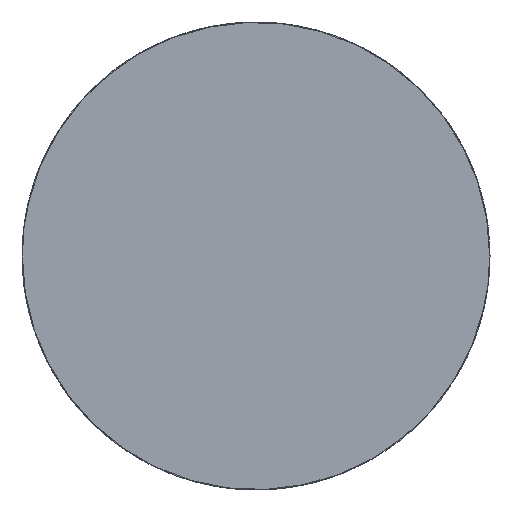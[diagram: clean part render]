
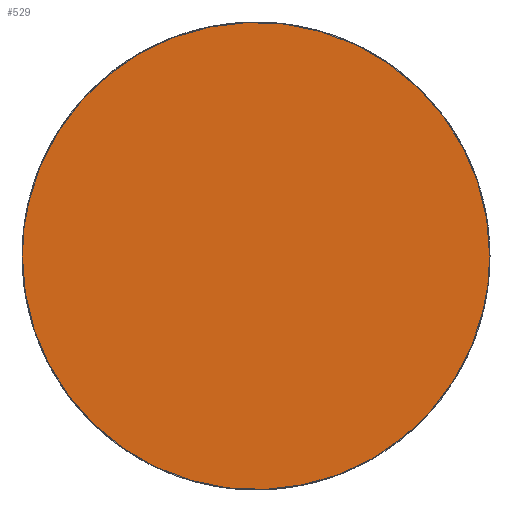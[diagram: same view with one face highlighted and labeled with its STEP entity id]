
A CAD part, top view. The second image highlights one B-rep face of the part: STEP entity #529.
In plain terms, the highlighted planar face has unit normal (0, 0, 1).
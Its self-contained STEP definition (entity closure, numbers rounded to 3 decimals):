
#131=(
BOUNDED_CURVE()
B_SPLINE_CURVE(3,(#7347,#7348,#7349,#7350,#7351,#7352,#7353,#7354,#7355,
#7356,#7357,#7358,#7359,#7360,#7361,#7362,#7363,#7364,#7365,#7366,#7367,
#7368,#7369,#7370,#7371,#7372,#7373,#7374,#7375,#7376,#7377,#7378,#7379,
#7380,#7381),.UNSPECIFIED.,.F.,.F.)
B_SPLINE_CURVE_WITH_KNOTS((4,1,1,1,1,1,1,1,1,1,1,1,1,1,1,1,1,1,1,1,1,1,
1,1,1,1,1,1,1,1,1,1,4),(0.,59.378,118.756,181.701,
244.646,310.217,375.788,442.756,509.723,
576.691,643.658,709.229,774.8,837.745,
900.691,960.069,1019.446,1078.824,1138.202,
1201.147,1264.093,1329.664,1395.235,1462.202,
1529.17,1596.137,1663.104,1728.675,1794.247,
1857.192,1920.137,1979.515,2038.893),
 .UNSPECIFIED.)
CURVE()
GEOMETRIC_REPRESENTATION_ITEM()
RATIONAL_B_SPLINE_CURVE((1.,1.,1.,1.,1.,1.,1.,
1.,1.,1.,1.,1.,1.,1.,1.,1.,
1.,1.,1.,1.,1.,1.,1.,1.,1.,1.,1.,1.,1.,1.,
1.,1.,1.,1.,1.))
REPRESENTATION_ITEM('')
);
#138=(
BOUNDED_CURVE()
B_SPLINE_CURVE(3,(#7497,#7498,#7499,#7500,#7501,#7502,#7503,#7504,#7505,
#7506,#7507,#7508,#7509,#7510,#7511,#7512,#7513,#7514,#7515,#7516,#7517,
#7518,#7519,#7520,#7521,#7522,#7523,#7524,#7525,#7526,#7527,#7528,#7529,
#7530,#7531),.UNSPECIFIED.,.F.,.F.)
B_SPLINE_CURVE_WITH_KNOTS((4,1,1,1,1,1,1,1,1,1,1,1,1,1,1,1,1,1,1,1,1,1,
1,1,1,1,1,1,1,1,1,1,4),(2038.893,2098.271,2157.648,
2220.594,2283.539,2349.11,2414.681,2481.649,
2548.616,2615.583,2682.551,2748.122,2813.693,
2876.638,2939.584,2998.961,3058.339,3117.717,
3177.095,3240.04,3302.986,3368.557,3434.128,
3501.095,3568.062,3635.03,3701.997,3767.568,
3833.139,3896.085,3959.03,4018.408,4077.786),
 .UNSPECIFIED.)
CURVE()
GEOMETRIC_REPRESENTATION_ITEM()
RATIONAL_B_SPLINE_CURVE((1.,1.,1.,1.,1.,1.,
1.,1.,1.,1.,1.,1.,1.,1.,1.,1.,1.,1.,1.,
1.,1.,1.,1.,1.,1.,1.,1.,
1.,1.,1.,1.,1.,1.,1.,1.))
REPRESENTATION_ITEM('')
);
#529=ADVANCED_FACE('',(#741),#2993,.T.);
#741=FACE_OUTER_BOUND('',#953,.T.);
#953=EDGE_LOOP('',(#1551,#1552));
#1551=ORIENTED_EDGE('',*,*,#2207,.T.);
#1552=ORIENTED_EDGE('',*,*,#2214,.T.);
#2207=EDGE_CURVE('',#2801,#2805,#131,.T.);
#2214=EDGE_CURVE('',#2805,#2801,#138,.T.);
#2801=VERTEX_POINT('',#7227);
#2805=VERTEX_POINT('',#7231);
#2993=PLANE('',#3112);
#3112=AXIS2_PLACEMENT_3D('',#6793,#3214,$);
#3214=DIRECTION('',(0.,0.,1.));
#6793=CARTESIAN_POINT('',(-812.5,-812.5,742.));
#7227=CARTESIAN_POINT('',(649.,0.,742.));
#7231=CARTESIAN_POINT('',(-649.,0.,742.));
#7347=CARTESIAN_POINT('',(649.,0.,742.));
#7348=CARTESIAN_POINT('',(649.,19.793,742.));
#7349=CARTESIAN_POINT('',(647.188,59.378,742.));
#7350=CARTESIAN_POINT('',(638.893,119.438,742.));
#7351=CARTESIAN_POINT('',(624.709,179.618,742.));
#7352=CARTESIAN_POINT('',(604.097,240.098,742.));
#7353=CARTESIAN_POINT('',(577.241,299.047,742.));
#7354=CARTESIAN_POINT('',(543.9,356.146,742.));
#7355=CARTESIAN_POINT('',(504.635,409.929,742.));
#7356=CARTESIAN_POINT('',(459.727,459.727,742.));
#7357=CARTESIAN_POINT('',(409.929,504.635,742.));
#7358=CARTESIAN_POINT('',(356.146,543.9,742.));
#7359=CARTESIAN_POINT('',(299.047,577.241,742.));
#7360=CARTESIAN_POINT('',(240.098,604.097,742.));
#7361=CARTESIAN_POINT('',(179.618,624.709,742.));
#7362=CARTESIAN_POINT('',(119.438,638.893,742.));
#7363=CARTESIAN_POINT('',(59.378,647.188,742.));
#7364=CARTESIAN_POINT('',(0.,649.906,742.));
#7365=CARTESIAN_POINT('',(-59.378,647.188,742.));
#7366=CARTESIAN_POINT('',(-119.438,638.893,742.));
#7367=CARTESIAN_POINT('',(-179.618,624.709,742.));
#7368=CARTESIAN_POINT('',(-240.098,604.097,742.));
#7369=CARTESIAN_POINT('',(-299.047,577.241,742.));
#7370=CARTESIAN_POINT('',(-356.146,543.9,742.));
#7371=CARTESIAN_POINT('',(-409.929,504.635,742.));
#7372=CARTESIAN_POINT('',(-459.727,459.727,742.));
#7373=CARTESIAN_POINT('',(-504.635,409.929,742.));
#7374=CARTESIAN_POINT('',(-543.9,356.146,742.));
#7375=CARTESIAN_POINT('',(-577.241,299.047,742.));
#7376=CARTESIAN_POINT('',(-604.097,240.098,742.));
#7377=CARTESIAN_POINT('',(-624.709,179.618,742.));
#7378=CARTESIAN_POINT('',(-638.893,119.438,742.));
#7379=CARTESIAN_POINT('',(-647.188,59.378,742.));
#7380=CARTESIAN_POINT('',(-649.,19.793,742.));
#7381=CARTESIAN_POINT('',(-649.,0.,742.));
#7497=CARTESIAN_POINT('',(-649.,0.,742.));
#7498=CARTESIAN_POINT('',(-649.,-19.793,742.));
#7499=CARTESIAN_POINT('',(-647.188,-59.378,742.));
#7500=CARTESIAN_POINT('',(-638.893,-119.438,742.));
#7501=CARTESIAN_POINT('',(-624.709,-179.618,742.));
#7502=CARTESIAN_POINT('',(-604.097,-240.098,742.));
#7503=CARTESIAN_POINT('',(-577.241,-299.047,742.));
#7504=CARTESIAN_POINT('',(-543.9,-356.146,742.));
#7505=CARTESIAN_POINT('',(-504.635,-409.929,742.));
#7506=CARTESIAN_POINT('',(-459.727,-459.727,742.));
#7507=CARTESIAN_POINT('',(-409.929,-504.635,742.));
#7508=CARTESIAN_POINT('',(-356.146,-543.9,742.));
#7509=CARTESIAN_POINT('',(-299.047,-577.241,742.));
#7510=CARTESIAN_POINT('',(-240.098,-604.097,742.));
#7511=CARTESIAN_POINT('',(-179.618,-624.709,742.));
#7512=CARTESIAN_POINT('',(-119.438,-638.893,742.));
#7513=CARTESIAN_POINT('',(-59.378,-647.188,742.));
#7514=CARTESIAN_POINT('',(0.,-649.906,742.));
#7515=CARTESIAN_POINT('',(59.378,-647.188,742.));
#7516=CARTESIAN_POINT('',(119.438,-638.893,742.));
#7517=CARTESIAN_POINT('',(179.618,-624.709,742.));
#7518=CARTESIAN_POINT('',(240.098,-604.097,742.));
#7519=CARTESIAN_POINT('',(299.047,-577.241,742.));
#7520=CARTESIAN_POINT('',(356.146,-543.9,742.));
#7521=CARTESIAN_POINT('',(409.929,-504.635,742.));
#7522=CARTESIAN_POINT('',(459.727,-459.727,742.));
#7523=CARTESIAN_POINT('',(504.635,-409.929,742.));
#7524=CARTESIAN_POINT('',(543.9,-356.146,742.));
#7525=CARTESIAN_POINT('',(577.241,-299.047,742.));
#7526=CARTESIAN_POINT('',(604.097,-240.098,742.));
#7527=CARTESIAN_POINT('',(624.709,-179.618,742.));
#7528=CARTESIAN_POINT('',(638.893,-119.438,742.));
#7529=CARTESIAN_POINT('',(647.188,-59.378,742.));
#7530=CARTESIAN_POINT('',(649.,-19.793,742.));
#7531=CARTESIAN_POINT('',(649.,0.,742.));
